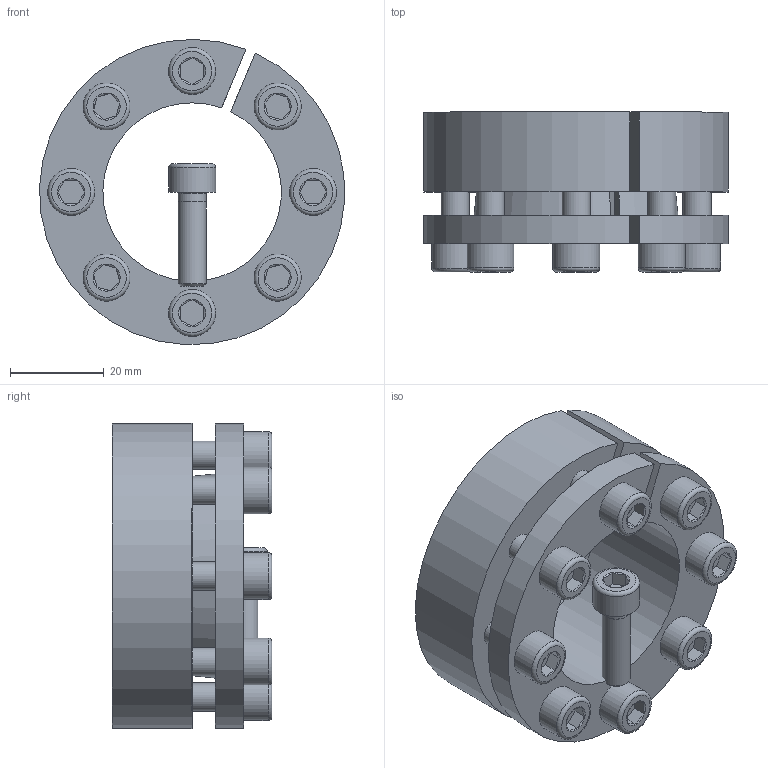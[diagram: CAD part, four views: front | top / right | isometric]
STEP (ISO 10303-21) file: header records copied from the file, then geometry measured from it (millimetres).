
FILE_DESCRIPTION( ( 'Unknown' ), '1' );
FILE_NAME( 'C:/Dokumente und Einstellungen/Sven/Desktop/homepage/cad - homepage/KBS13/KBS 13 - 38 x 65.stp', 'Unknown', ( 'Unknown' ), ( 'Unknown' ), 'XStep 1.0', 'Unknown', ' ' );
FILE_SCHEMA( ( 'automotive_design' ) );
Length unit declared in the file: millimetre
Products named in the file (3): Assem1; KBS 13 - 38 x 65; ISO EN DIN 4762 M6x20
Bounding box: 64.92 x 34 x 64.96 mm (x, y, z)
Volume: 100082.4 mm3; surface area: 46649.8 mm2
Topology: 11 solids, 11 shells, 281 faces, 573 edges, 350 vertices
Faces by surface type: plane 122, cylinder 74, cone 67, torus 18
Full cylindrical faces by diameter (mm): 5 x9, 6 x50, 10 x9
Entity records: 1774 total; most frequent: CARTESIAN_POINT 293, DIRECTION 272, ORIENTED_EDGE 194, AXIS2_PLACEMENT_3D 122, EDGE_LOOP 112, EDGE_CURVE 97, FACE_OUTER_BOUND 75, VERTEX_POINT 75
